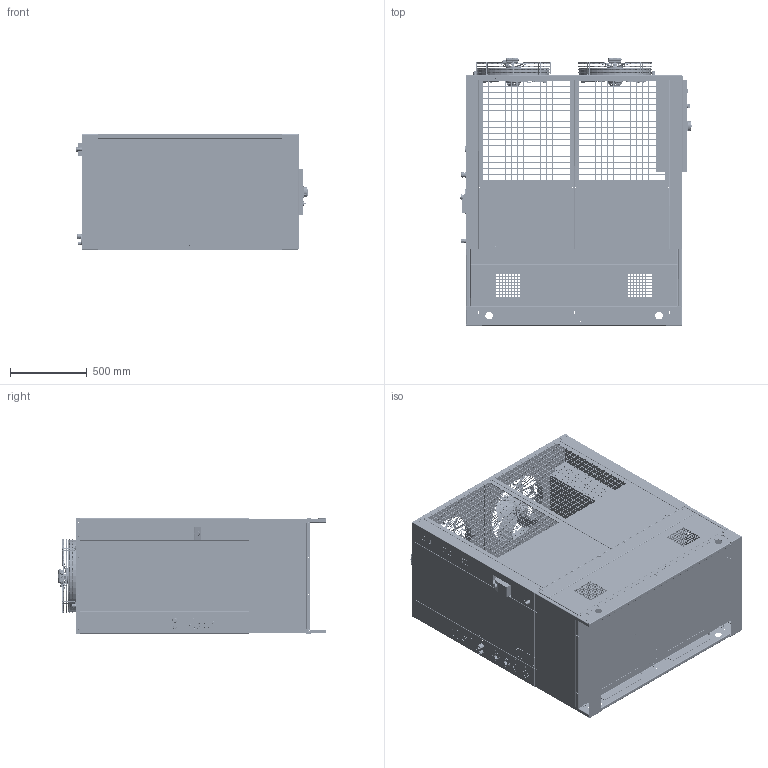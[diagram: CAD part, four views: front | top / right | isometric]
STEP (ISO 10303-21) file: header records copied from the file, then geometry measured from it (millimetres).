
FILE_DESCRIPTION (( 'STEP AP214' ), '1' );
FILE_NAME ('50-3D-00015+50-3D-00022.STEP', '2018-12-12T09:34:17', ( 'Utente' ), ( 'Microsoft' ), 'SwSTEP 2.0', 'SolidWorks 2013', '' );
FILE_SCHEMA (( 'AUTOMOTIVE_DESIGN' ));
Length unit declared in the file: millimetre
Products named in the file (61): VR-3D-00015_001; PG 13.5_1_Socket-1.209.1300.14-Nelco; VR-3D-00015_001B; PG 13.5_2_Nut-PA-Grey-24-24-27-Nelco; VR-2D-00011_000; VR-3D-00015_001A; QUADRO_ELETTRICO_BK_BK; 50-3D-00022; CR-2D-00004_000; TE-EL-00007 - EW_971_230V_BK; VR-3D-00035_000; CR-3D-00002_000; SELETTORE_NERO_BK_BK; VR-3D-00023_002; Welding stud DIN32501-1 M6X15 INOX; Tappo quadro elettrico_BK_BK; VR-3D-00024_001; Rivelox M6 Reduced Head Hexagonal Shank; DED965FB-6F17-44D8-8B5E-7FBD67AD56EC_3_BK_BK; VR-3D-00022_002; VR-2D-00036_000; VR-3D-00003_002; MA-N1-00001_MANOMETRO ACQUA 40mm 0-12 BAR; CR-3D-00008_000; AEC1022B_STUDIO_3_BK_BK; RIVELOX M5; VR-3D-00021_000; ST-AT-00020_003; CR-3D-00007_000; VR-2D-00008_001; CR-3D-00005_000; pg-21 nelco_Cable-Gland-1.209.2100.15-Nelco; VR-3D-00004_001; VR-2D-00014_000; VR-2D-00005_001; Rivelox M5 Reduced Head Hexagonal Shank..; pg-21 nelco_part2_Nut-PA-Grey-33-33-31-Nelco; VR-2D-00013_001; CR-3D-00011_000; pg-21 nelco_part1_Socket-1.209.2100.15-Nelco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
Assembly tree (160 placements, depth 4):
  50-3D-00015+50-3D-00022
    VR-3D-00004_001
      VR-3D-00004_001
      Rivelox M5 Reduced Head Hexagonal Shank..  x4
    CR-3D-00005_000  x2
    50-3D-00022
      VR-3D-00003_002
        VR-3D-00003_002
        RIVELOX M5  x30
      VR-3D-00022_002
      VR-3D-00024_001  x2
      VR-3D-00023_002  x2
      VR-3D-00004_001
        VR-3D-00004_001
        Rivelox M5 Reduced Head Hexagonal Shank..  x4
      VR-3D-00035_000  x4
    VR-2D-00011_000
      VR-2D-00011_000
      Rivelox M5 Reduced Head Hexagonal Shank.  x8
    VR-2D-00012_000
      VR-2D-00012_000
      Rivelox M5 Reduced Head Hexagonal Shank.  x8
    VR-2D-00013_001
      VR-2D-00013_001
      Rivelox M5 Reduced Head Hexagonal Shank.  x5
    VR-2D-00014_000
      VR-2D-00014_000
      Rivelox M5 Reduced Head Hexagonal Shank.  x5
    CR-3D-00007_000
      CR-3D-00007_000
      Rivelox M5 Reduced Head Hexagonal Shank..  x4
    CR-3D-00008_000
      CR-3D-00008_000
      Rivelox M5 Reduced Head Hexagonal Shank..  x4
    CR-3D-00002_000
      CR-3D-00002_000
      Rivelox M5 Reduced Head Hexagonal Shank..  x6
      Rivelox M6 Reduced Head Hexagonal Shank  x4
      Welding stud DIN32501-1 M6X15 INOX
    CR-2D-00004_000
    VR-3D-00015_001
      VR-3D-00015_001A
      VR-3D-00015_001B  x2
    CR-3D-00006_000
      CR-3D-00006_000
      Rivelox M5 Reduced Head Hexagonal Shank  x4
    CR-3D-00011_000  x2
      CR-3D-00011_000
      Rivelox M5 Reduced Head Hexagonal Shank.
    VR-2D-00005_001  x4
      VR-2D-00005_001
      Rivelox M5 Reduced Head Hexagonal Shank.
    VR-2D-00008_001
      VR-2D-00008_001
      Rivelox M5 Reduced Head Hexagonal Shank.  x2
    VR-3D-00021_000
    QUADRO_ELETTRICO_BK_BK
      AEC1022B_STUDIO_3_BK_BK
      DED965FB-6F17-44D8-8B5E-7FBD67AD56EC_3_BK_BK
      Tappo quadro elettrico_BK_BK
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Bounding box: 1512.07 x 1748.26 x 754.7 mm (x, y, z)
Volume: 20796672.7 mm3; surface area: 31402441.5 mm2
Topology: 218 solids, 541 shells, 18320 faces, 56481 edges, 38367 vertices
Faces by surface type: plane 11203, cylinder 3161, bspline 2791, cone 1045, torus 120
Entity records: 522454 total; most frequent: CARTESIAN_POINT 244576, ORIENTED_EDGE 52423, DIRECTION 44341, EDGE_CURVE 29140, VERTEX_POINT 19732, VECTOR 17125, LINE 17125, AXIS2_PLACEMENT_3D 13608
